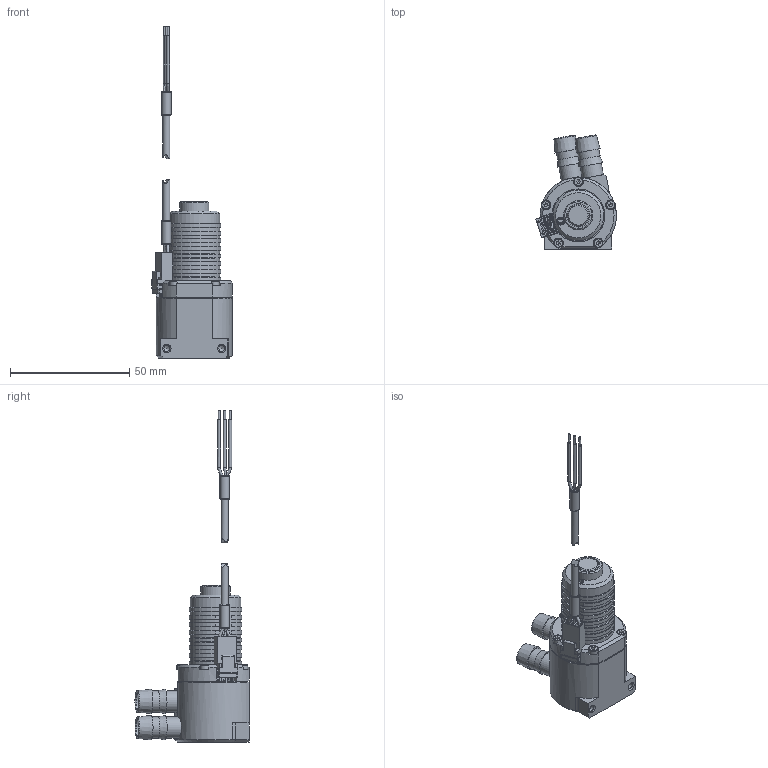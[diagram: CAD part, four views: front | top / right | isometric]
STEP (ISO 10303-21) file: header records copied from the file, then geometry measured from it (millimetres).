
FILE_DESCRIPTION (( 'STEP AP214' ), '1' );
FILE_NAME ('M510S-V REV 3.STEP', '2021-03-23T09:40:41', ( '' ), ( '' ), 'SwSTEP 2.0', 'SolidWorks 2016', '' );
FILE_SCHEMA (( 'AUTOMOTIVE_DESIGN' ));
Length unit declared in the file: millimetre
Products named in the file (16): P-0101_M2x10 Screw; P-0873; P-0730; P-0872; P-0729; E20D-01_E20D-01; E20D_E20D-BOM05; M510S-V REV 3; P-1012; P-0007; P-0736_E20D PCB STD - TYPE A; P-0871; P-0731; P-0305_B18.3.6M - M3 x 0.5 x 4 Hex Socket Flat Pt. SS --C; P-0733; P-0874
Assembly tree (23 placements, depth 4):
  M510S-V REV 3
    E20D_E20D-BOM05
      P-0731
      P-0733
      E20D-01_E20D-01
        P-0736_E20D PCB STD - TYPE A
        P-0730
      P-0305_B18.3.6M - M3 x 0.5 x 4 Hex Socket Flat Pt. SS --C
      P-0872
        P-0729
        P-0871  x3
        P-0873
        P-0874  x2
    P-0101_M2x10 Screw  x5
    P-0007  x2
    P-1012
Bounding box: 33.85 x 47.79 x 139.08 mm (x, y, z)
Volume: 20354.7 mm3; surface area: 22511.7 mm2
Topology: 21 solids, 21 shells, 703 faces, 1740 edges, 1120 vertices
Faces by surface type: plane 437, cylinder 168, cone 77, torus 13, bspline 8
Full cylindrical faces by diameter (mm): 0.8 x6, 1 x6, 1.2 x3, 1.6 x11, 2 x5, 2.1 x5, 2.5 x3, 3 x5, 3.8 x5, 4 x2, 6 x1, 7.8 x2, 8 x2, 9 x4, 9.02 x2, 9.2 x1, 9.4 x1, 9.8 x1, 10.6 x1, 11 x1, 12.2 x1, 15 x1, 20.1 x1, 21.3 x2, 22 x1, 22.1 x1, 23.6 x1, 26.55 x1
Entity records: 17680 total; most frequent: CARTESIAN_POINT 3737, DIRECTION 2498, ORIENTED_EDGE 2306, EDGE_CURVE 1153, AXIS2_PLACEMENT_3D 874, VERTEX_POINT 803, LINE 750, VECTOR 750
